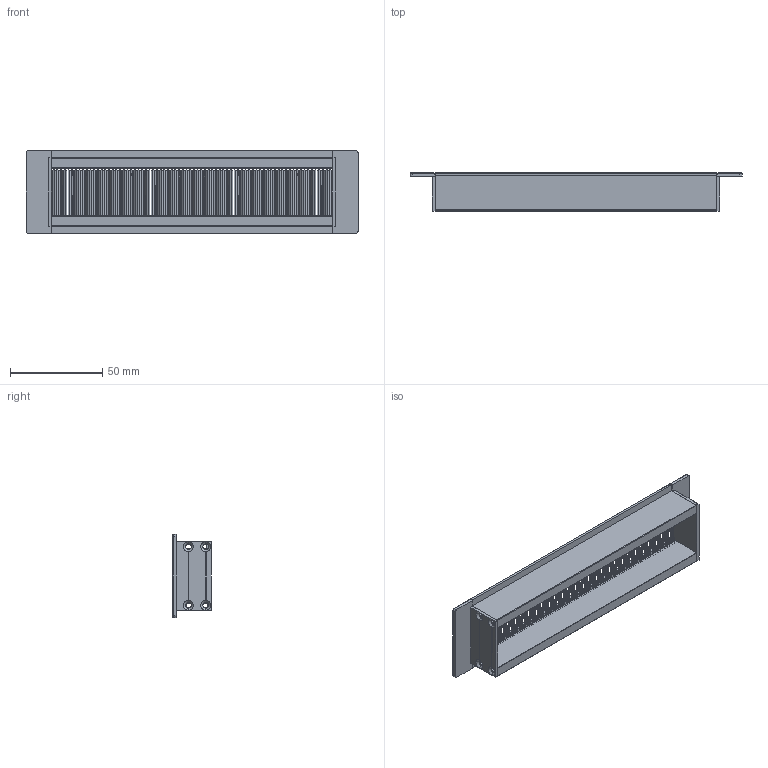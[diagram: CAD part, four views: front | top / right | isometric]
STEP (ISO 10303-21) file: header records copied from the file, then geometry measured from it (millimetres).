
FILE_DESCRIPTION((''),'2;1');
FILE_NAME('2080266_ASM','2016-12-14T',('Administrator'),(''),'PRO/ENGINEER BY PARAMETRIC TECHNOLOGY CORPORATION, 2012130','PRO/ENGINEER BY PARAMETRIC TECHNOLOGY CORPORATION, 2012130','');
FILE_SCHEMA(('CONFIG_CONTROL_DESIGN'));
Length unit declared in the file: millimetre
Products named in the file (4): NCT045; 20X180; 20X45X180; 2080266_ASM
Assembly tree (5 placements, depth 2):
  2080266_ASM
    NCT045  x2
    20X180  x2
    20X45X180
Bounding box: 180 x 20.85 x 45 mm (x, y, z)
Volume: 28023.9 mm3; surface area: 48988.1 mm2
Topology: 5 solids, 237 shells, 618 faces, 1816 edges, 1200 vertices
Faces by surface type: cylinder 524, plane 70, cone 16, torus 8
Entity records: 18207 total; most frequent: DIRECTION 3712, CARTESIAN_POINT 3387, ORIENTED_EDGE 2316, EDGE_CURVE 1622, AXIS2_PLACEMENT_3D 1555, VERTEX_POINT 1076, CIRCLE 996, VECTOR 602
